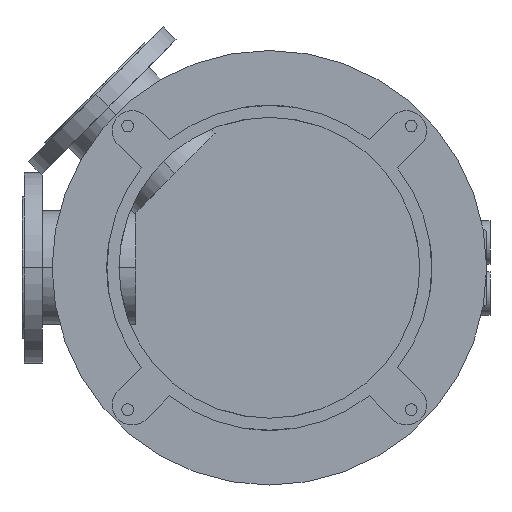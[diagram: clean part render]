
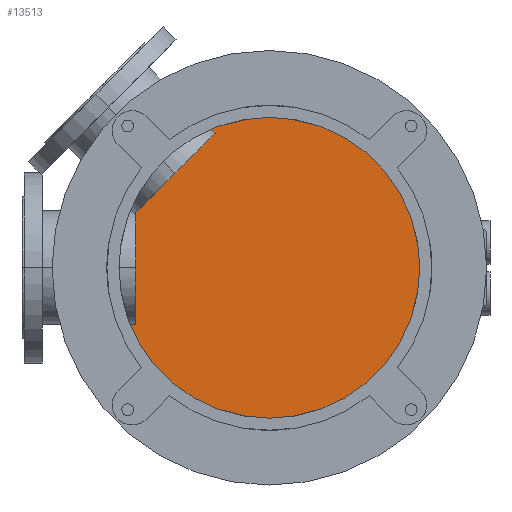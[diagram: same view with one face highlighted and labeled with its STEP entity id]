
A CAD part, front view. The second image highlights one B-rep face of the part: STEP entity #13513.
In plain terms, the highlighted planar face has unit normal (0, -1, 0).
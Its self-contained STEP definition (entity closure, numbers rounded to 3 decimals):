
#2823=CARTESIAN_POINT('',(0.,500.,0.));
#2824=DIRECTION('',(0.,-1.,0.));
#2825=DIRECTION('',(0.,0.,1.));
#2826=AXIS2_PLACEMENT_3D('',#2823,#2824,#2825);
#3002=CARTESIAN_POINT('',(0.,500.,0.));
#3003=DIRECTION('',(0.,-1.,0.));
#3004=DIRECTION('',(0.,0.,-1.));
#3005=AXIS2_PLACEMENT_3D('',#3002,#3003,#3004);
#8658=CARTESIAN_POINT('',(0.,500.,240.));
#8659=CARTESIAN_POINT('',(0.,500.,-240.));
#8660=VERTEX_POINT('',#8658);
#8661=VERTEX_POINT('',#8659);
#13503=CARTESIAN_POINT('',(0.,500.,0.));
#13504=DIRECTION('',(0.,1.,0.));
#13505=DIRECTION('',(0.,0.,-1.));
#13506=AXIS2_PLACEMENT_3D('',#13503,#13504,#13505);
#13507=PLANE('',#13506);
#13508=ORIENTED_EDGE('',*,*,#13481,.F.);
#13510=ORIENTED_EDGE('',*,*,#13509,.F.);
#13511=EDGE_LOOP('',(#13508,#13510));
#13512=FACE_OUTER_BOUND('',#13511,.F.);
#13513=ADVANCED_FACE('',(#13512),#13507,.F.);
#2827=CIRCLE('',#2826,240.);
#3006=CIRCLE('',#3005,240.);
#13481=EDGE_CURVE('',#8660,#8661,#2827,.T.);
#13509=EDGE_CURVE('',#8661,#8660,#3006,.T.);
